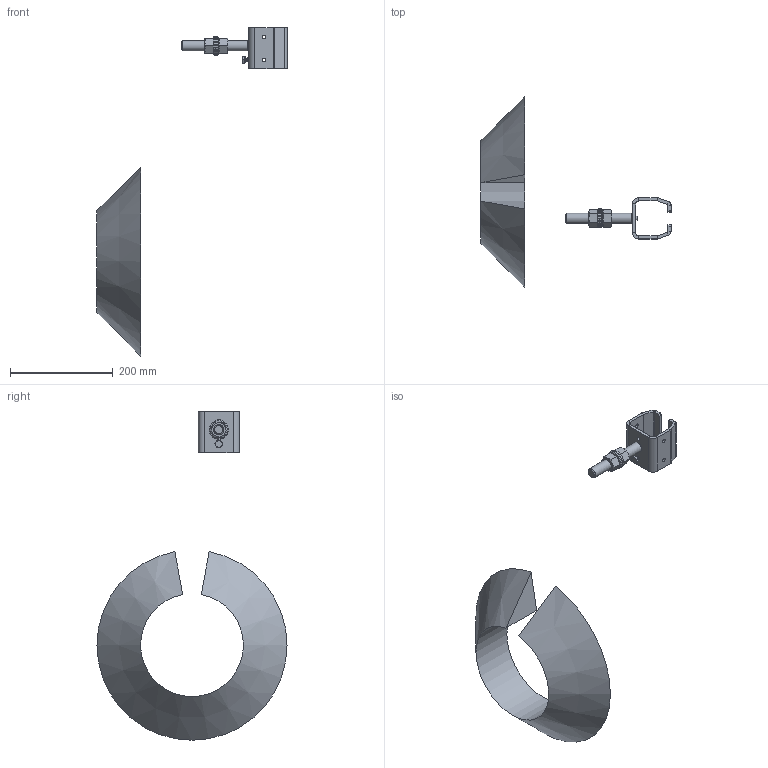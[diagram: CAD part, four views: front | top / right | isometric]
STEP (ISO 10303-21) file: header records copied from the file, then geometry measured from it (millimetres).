
FILE_DESCRIPTION(/* description */ ('Muffe H/S Nr.3'),/* implementation_level */ '2;1');
FILE_NAME(/* name */ 'Q:\sge-ma\Produktmanagement-STB\STB\Workspace\stp\010335530.stp',/* time_stamp */ '2015-09-11T08:00:31+02:00',/* author */ ('avschreier'),/* organization */ (''),/* preprocessor_version */ 'ST-DEVELOPER v15.6',/* originating_system */ 'Autodesk Inventor 2015',/* authorisation */ '');
FILE_SCHEMA (('CONFIG_CONTROL_DESIGN'));
Length unit declared in the file: centimetre
Products named in the file (8): 010335530_Schweißnähte; 000302230; 335140030; DIN_EN_ISO_4017-M8x16_en; DIN_EN_ISO_4032-M20_en; DIN_6798-A_21_en; DIN_6916-21_en; 010335530
Assembly tree (9 placements, depth 2):
  010335530
    010335530_Schweißnähte
    000302230
    335140030
    DIN_EN_ISO_4017-M8x16_en
    DIN_EN_ISO_4032-M20_en  x2
    DIN_6798-A_21_en
    DIN_6916-21_en  x2
Bounding box: 369.79 x 369.7 x 638.8 mm (x, y, z)
Volume: 2914073.4 mm3; surface area: 294402.4 mm2
Topology: 9 solids, 9 shells, 256 faces, 645 edges, 409 vertices
Faces by surface type: plane 119, cylinder 114, cone 23
Full cylindrical faces by diameter (mm): 6.647 x3, 6.8 x3, 7.323 x1, 8 x1, 11.4 x1, 17.294 x2, 20 x1, 21 x3, 37 x2
Entity records: 7231 total; most frequent: DIRECTION 1302, CARTESIAN_POINT 1259, ORIENTED_EDGE 1154, EDGE_CURVE 577, AXIS2_PLACEMENT_3D 495, VERTEX_POINT 380, LINE 312, VECTOR 312
